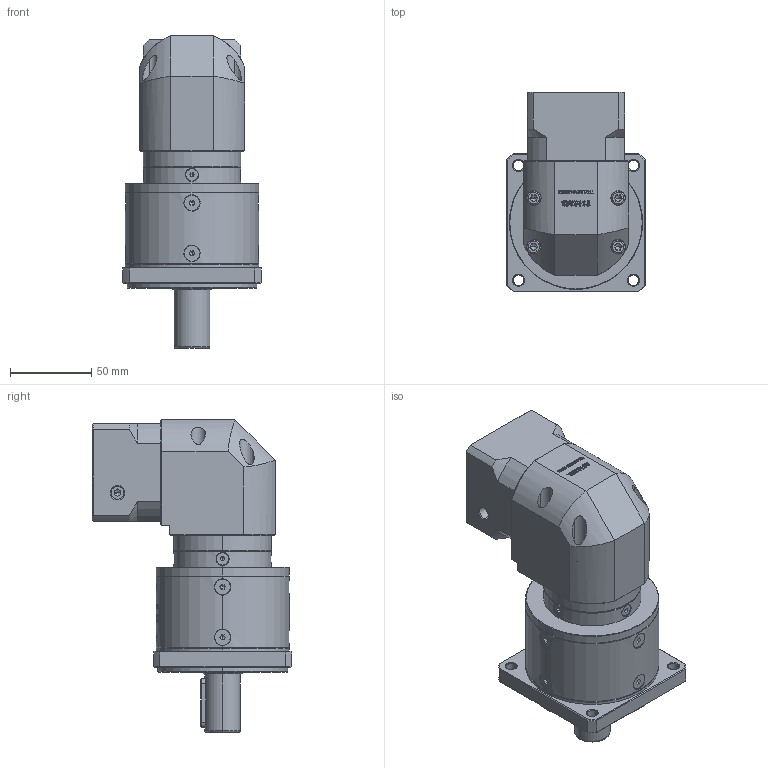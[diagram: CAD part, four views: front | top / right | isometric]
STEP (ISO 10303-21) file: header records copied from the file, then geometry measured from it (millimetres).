
FILE_DESCRIPTION (( 'STEP AP214' ), '1' );
FILE_NAME ('ZFR80-D22-L2-8-30-46-M4.step', '2022-05-08T14:54:52', ( '' ), ( 'Microsoft' ), 'SwSTEP 2.0', 'SolidWorks 2016', '' );
FILE_SCHEMA (( 'AUTOMOTIVE_DESIGN' ));
Length unit declared in the file: millimetre
Products named in the file (1): ZFR80-D22-L2-8-30-46-M4
Bounding box: 85 x 122.7 x 192.5 mm (x, y, z)
Volume: 794822 mm3; surface area: 104546.6 mm2
Topology: 17 solids, 18 shells, 3121 faces, 8341 edges, 5382 vertices
Faces by surface type: plane 1599, bspline 672, cylinder 452, cone 378, torus 20
Entity records: 187031 total; most frequent: CARTESIAN_POINT 80634, ORIENTED_EDGE 16606, DIRECTION 12405, EDGE_CURVE 8303, VERTEX_POINT 5382, LINE 4967, VECTOR 4967, AXIS2_PLACEMENT_3D 3719
